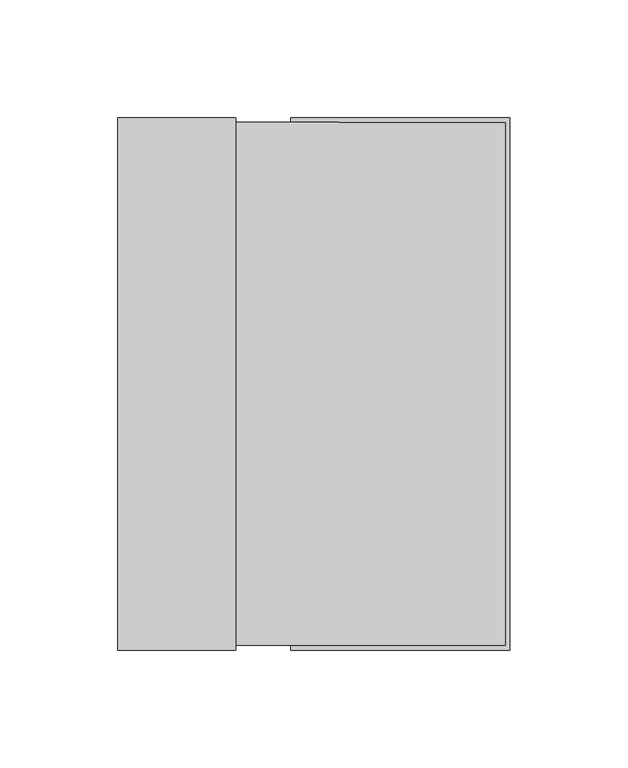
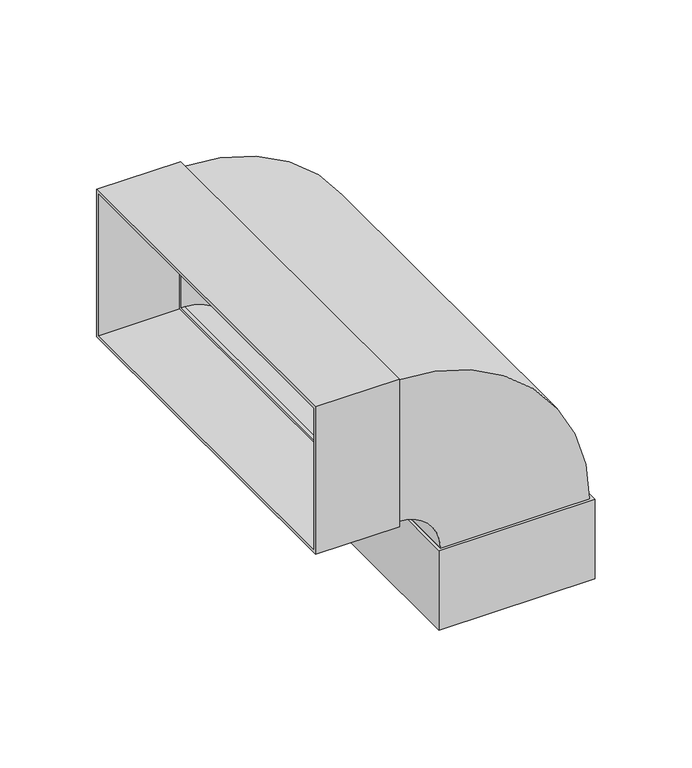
"""IFC4 building model written with IfcOpenShell, lengths in millimetres: proxy geometry, 10811410_D_DFK-BV90 : 28996391_D_10811410_DFK-BV90."""

from ifc_helpers import new_model, si_unit, frame, origin, place, context, project, spatial, polyline, circle_curve, outline, extrude, source, transform, mapped, element, save
from ifc_brep_helpers import plane_surface, cylinder_surface, revolved_surface, advanced_brep


def specialty_equipment_45808fcd(model_context):
    return source(origin(), model_context, "Body", "SolidModel", [
        extrude(outline(polyline([(-113.0, 46.5), (113.0, 46.5), (113.0, -46.5), (-113.0, -46.5), (-113.0, 46.5)]), holes=[polyline([(111.0, 44.5), (-111.0, 44.5), (-111.0, -44.5), (111.0, -44.5), (111.0, 44.5)])]), frame((0.0, 0.0, 0.0), z_axis=(1.0, 0.0, 0.0), x_axis=(0.0, 1.0, 0.0)), (0.0, 0.0, 1.0), 50.0),
        advanced_brep(
        [(50.0, -109.0, 42.5), (162.5, -109.0, -70.0), (162.5, -109.0, -72.0), (77.5, -109.0, -72.0), (77.5, -109.0, -70.0), (50.0, -109.0, -42.5), (48.0, -109.0, -42.5), (48.0, -109.0, 42.5), (50.0, 109.0, -42.5), (48.0, 109.0, -42.5), (77.5, 109.0, -70.0), (77.5, 109.0, -72.0), (162.5, 109.0, -72.0), (162.5, 109.0, -70.0), (50.0, 109.0, 42.5), (48.0, 109.0, 42.5), (50.0, 111.0, 44.5), (164.5, 111.0, -70.0), (164.5, 111.0, -72.0), (75.5, 111.0, -72.0), (75.5, 111.0, -70.0), (50.0, 111.0, -44.5), (48.0, 111.0, -44.5), (48.0, 111.0, 44.5), (50.0, -111.0, -44.5), (48.0, -111.0, -44.5), (75.5, -111.0, -70.0), (75.5, -111.0, -72.0), (164.5, -111.0, -72.0), (164.5, -111.0, -70.0), (50.0, -111.0, 44.5), (48.0, -111.0, 44.5)],
        [
            (0, 1, circle_curve(frame((50.0, -109.0, -70.0), z_axis=(0.0, 1.0, 0.0), x_axis=(0.0, 0.0, 1.0)), 112.5)),
            (1, 2),
            (2, 3),
            (3, 4),
            (4, 5, circle_curve(frame((50.0, -109.0, -70.0), z_axis=(0.0, -1.0, 0.0), x_axis=(0.0, 0.0, 1.0)), 27.5)),
            (5, 6),
            (6, 7),
            (7, 0),
            (5, 8),
            (8, 9),
            (9, 6),
            (8, 10, circle_curve(frame((50.0, 109.0, -70.0), z_axis=(0.0, 1.0, 0.0), x_axis=(0.0, 0.0, 1.0)), 27.5)),
            (10, 11),
            (11, 12),
            (12, 13),
            (13, 14, circle_curve(frame((50.0, 109.0, -70.0), z_axis=(0.0, -1.0, 0.0), x_axis=(0.0, 0.0, 1.0)), 112.5)),
            (14, 15),
            (15, 9),
            (14, 0),
            (7, 15),
            (16, 17, circle_curve(frame((50.0, 111.0, -70.0), z_axis=(0.0, 1.0, 0.0), x_axis=(0.0, 0.0, 1.0)), 114.5)),
            (17, 18),
            (18, 19),
            (19, 20),
            (20, 21, circle_curve(frame((50.0, 111.0, -70.0), z_axis=(0.0, -1.0, 0.0), x_axis=(0.0, 0.0, 1.0)), 25.5)),
            (21, 22),
            (22, 23),
            (23, 16),
            (21, 24),
            (24, 25),
            (25, 22),
            (24, 26, circle_curve(frame((50.0, -111.0, -70.0), z_axis=(0.0, 1.0, 0.0), x_axis=(0.0, 0.0, 1.0)), 25.5)),
            (26, 27),
            (27, 28),
            (28, 29),
            (29, 30, circle_curve(frame((50.0, -111.0, -70.0), z_axis=(0.0, -1.0, 0.0), x_axis=(0.0, 0.0, 1.0)), 114.5)),
            (30, 31),
            (31, 25),
            (30, 16),
            (23, 31),
            (4, 10),
            (13, 1),
            (20, 26),
            (29, 17),
            (3, 11),
            (12, 2),
            (19, 27),
            (28, 18),
        ],
        [
            plane_surface(frame((0.0, -109.0, 42.5), z_axis=(0.0, 1.0, 0.0), x_axis=(1.0, 0.0, 0.0))),
            plane_surface(frame((0.0, -109.0, -42.5), z_axis=(0.0, 0.0, 1.0), x_axis=(1.0, 0.0, 0.0))),
            plane_surface(frame((0.0, 109.0, -42.5), z_axis=(0.0, -1.0, 0.0), x_axis=(1.0, 0.0, 0.0))),
            plane_surface(frame((0.0, 109.0, 42.5), z_axis=(0.0, 0.0, -1.0), x_axis=(1.0, 0.0, 0.0))),
            plane_surface(frame((0.0, 111.0, 44.5), z_axis=(0.0, 1.0, 0.0), x_axis=(1.0, 0.0, 0.0))),
            plane_surface(frame((0.0, 111.0, -44.5), z_axis=(0.0, 0.0, -1.0), x_axis=(1.0, 0.0, 0.0))),
            plane_surface(frame((0.0, -111.0, -44.5), z_axis=(0.0, -1.0, 0.0), x_axis=(1.0, 0.0, 0.0))),
            plane_surface(frame((0.0, -111.0, 44.5), z_axis=(0.0, 0.0, 1.0), x_axis=(1.0, 0.0, 0.0))),
            plane_surface(frame((48.0, -91.0, 44.5), z_axis=(-1.0, 0.0, 0.0), x_axis=(0.0, -1.0, 0.0))),
            cylinder_surface(frame((50.0, 0.0, -70.0), z_axis=(0.0, 1.0, 0.0), x_axis=(0.0, 0.0, 1.0)), 27.5),
            revolved_surface(polyline([(50.0, 109.0, 42.5), (50.0, -109.0, 42.5)]), (50.0, 0.0, -70.0), (0.0, 1.0, 0.0)),
            revolved_surface(polyline([(50.0, 111.0, -44.5), (50.0, -111.0, -44.5)]), (50.0, 0.0, -70.0), (0.0, 1.0, 0.0)),
            cylinder_surface(frame((50.0, 0.0, -70.0), z_axis=(0.0, 1.0, 0.0), x_axis=(0.0, 0.0, 1.0)), 114.5),
            plane_surface(frame((77.5, -109.0, -70.0), z_axis=(1.0, 0.0, 0.0), x_axis=(0.0, 0.0, -1.0))),
            plane_surface(frame((162.5, 109.0, -70.0), z_axis=(-1.0, 0.0, 0.0), x_axis=(0.0, 0.0, -1.0))),
            plane_surface(frame((75.5, 111.0, -70.0), z_axis=(-1.0, 0.0, 0.0), x_axis=(0.0, 0.0, -1.0))),
            plane_surface(frame((164.5, -111.0, -70.0), z_axis=(1.0, 0.0, 0.0), x_axis=(0.0, 0.0, -1.0))),
            plane_surface(frame((75.5, 111.0, -72.0), z_axis=(0.0, 0.0, -1.0), x_axis=(0.0, -1.0, 0.0))),
        ],
        [
            (0, [[1, 2, 3, 4, 5, 6, 7, 8]]),
            (1, [[9, 10, 11, -6]]),
            (2, [[12, 13, 14, 15, 16, 17, 18, -10]]),
            (3, [[19, -8, 20, -17]]),
            (4, [[21, 22, 23, 24, 25, 26, 27, 28]]),
            (5, [[29, 30, 31, -26]]),
            (6, [[32, 33, 34, 35, 36, 37, 38, -30]]),
            (7, [[39, -28, 40, -37]]),
            (8, [[-27, -31, -38, -40], [-7, -11, -18, -20]]),
            (9, [[-5, 41, -12, -9]]),
            (10, [[-1, -19, -16, 42]]),
            (11, [[-25, 43, -32, -29]]),
            (12, [[-21, -39, -36, 44]]),
            (13, [[-41, -4, 45, -13]]),
            (14, [[-42, -15, 46, -2]]),
            (15, [[-43, -24, 47, -33]]),
            (16, [[-44, -35, 48, -22]]),
            (17, [[-23, -48, -34, -47], [-3, -46, -14, -45]]),
        ],
    ),
        extrude(outline(polyline([(73.5, 113.0), (166.5, 113.0), (166.5, -113.0), (73.5, -113.0), (73.5, 113.0)]), holes=[polyline([(75.5, 111.0), (75.5, -111.0), (164.5, -111.0), (164.5, 111.0), (75.5, 111.0)])]), frame((0.0, 0.0, -120.0), z_axis=(0.0, 0.0, 1.0), x_axis=(1.0, 0.0, 0.0)), (0.0, 0.0, 1.0), 50.0),
    ])


if __name__ == "__main__":
    model = new_model("IFC4")
    model_context = context("Model", 3, world=origin())
    ifc_project = project(units=[si_unit("LENGTHUNIT", "METRE", prefix="MILLI")], contexts=[model_context])
    site = spatial("IfcSite", under=ifc_project)
    building = spatial("IfcBuilding", under=site)
    placement = place(None, origin())
    specialty_equipment_shape = specialty_equipment_45808fcd(model_context)
    element("IfcBuildingElementProxy", 1, Name="10811410_D_DFK-BV90 : 28996391_D_10811410_DFK-BV90", ObjectType="10811410_D_DFK-BV90 : 28996391_D_10811410_DFK-BV90", at=placement, inside=building, context=model_context, shape_type="MappedRepresentation", body=[
        mapped(specialty_equipment_shape, transform((0.0, 0.0, 0.0), x_axis=(1.0, 0.0, 0.0), y_axis=(0.0, 1.0, 0.0), z_axis=(0.0, 0.0, 1.0))),
    ])
    save(model, "model.ifc")
